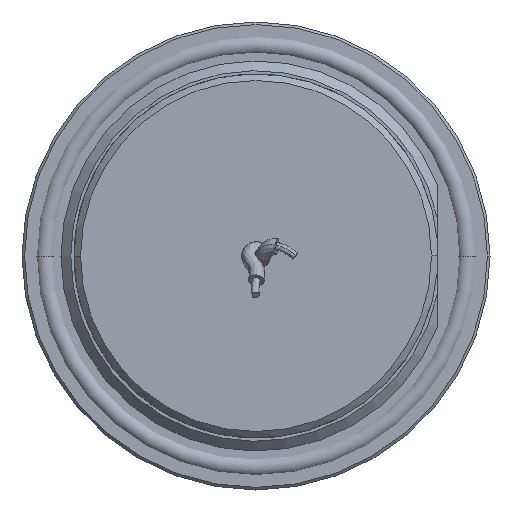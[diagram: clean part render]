
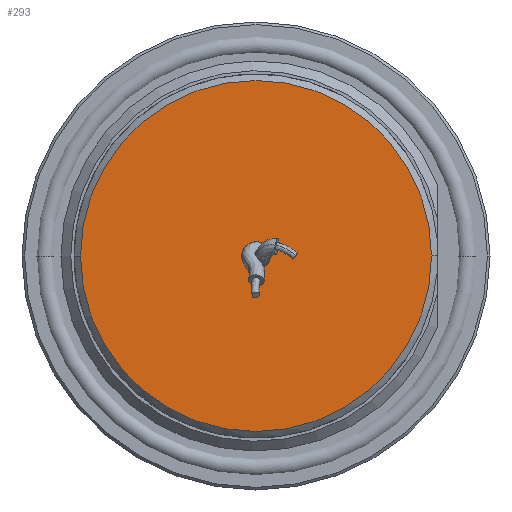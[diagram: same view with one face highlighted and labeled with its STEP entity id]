
A CAD part, front view. The second image highlights one B-rep face of the part: STEP entity #293.
In plain terms, the highlighted planar face has unit normal (0, -1, 0).
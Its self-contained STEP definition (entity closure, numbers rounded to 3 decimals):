
#39=CARTESIAN_POINT('',(0.,-16.14,0.));
#40=DIRECTION('',(0.,-1.,0.));
#41=DIRECTION('',(-1.,0.,0.));
#42=AXIS2_PLACEMENT_3D('',#39,#40,#41);
#44=CARTESIAN_POINT('',(0.,-16.14,0.));
#45=DIRECTION('',(0.,-1.,0.));
#46=DIRECTION('',(1.,0.,0.));
#47=AXIS2_PLACEMENT_3D('',#44,#45,#46);
#185=CARTESIAN_POINT('',(-13.5,-16.14,0.));
#186=CARTESIAN_POINT('',(13.5,-16.14,0.));
#187=VERTEX_POINT('',#185);
#188=VERTEX_POINT('',#186);
#282=CARTESIAN_POINT('',(0.,-16.14,0.));
#283=DIRECTION('',(0.,1.,0.));
#284=DIRECTION('',(1.,0.,0.));
#285=AXIS2_PLACEMENT_3D('',#282,#283,#284);
#286=PLANE('',#285);
#288=ORIENTED_EDGE('',*,*,#287,.F.);
#290=ORIENTED_EDGE('',*,*,#289,.F.);
#291=EDGE_LOOP('',(#288,#290));
#292=FACE_OUTER_BOUND('',#291,.F.);
#293=ADVANCED_FACE('',(#292),#286,.F.);
#43=CIRCLE('',#42,13.5);
#48=CIRCLE('',#47,13.5);
#287=EDGE_CURVE('',#187,#188,#43,.T.);
#289=EDGE_CURVE('',#188,#187,#48,.T.);
